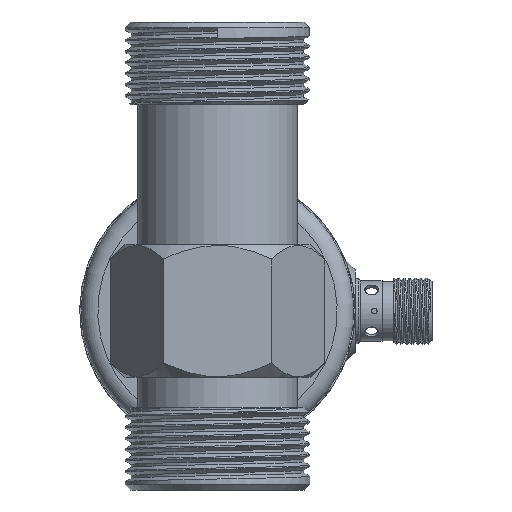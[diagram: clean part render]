
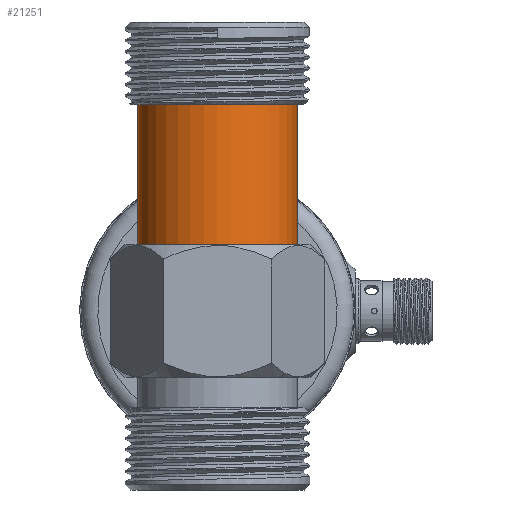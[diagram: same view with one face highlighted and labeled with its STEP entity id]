
A CAD part, front view. The second image highlights one B-rep face of the part: STEP entity #21251.
In plain terms, the highlighted cylindrical face has radius 14.5 mm (diameter 29 mm), a full revolution.
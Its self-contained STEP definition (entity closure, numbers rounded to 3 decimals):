
#2285 = DIRECTION ( 'NONE',  ( 1., 0., 0. ) ) ;
#2600 = CYLINDRICAL_SURFACE ( 'NONE', #20870, 14.5 ) ;
#2773 = CIRCLE ( 'NONE', #17981, 14.5 ) ;
#4200 = CARTESIAN_POINT ( 'NONE',  ( 0., 0., 2. ) ) ;
#4382 = AXIS2_PLACEMENT_3D ( 'NONE', #4200, #10975, #2285 ) ;
#4509 = VERTEX_POINT ( 'NONE', #16886 ) ;
#6559 = DIRECTION ( 'NONE',  ( 0., 0., -1. ) ) ;
#7878 = DIRECTION ( 'NONE',  ( 1., 0., 0. ) ) ;
#8602 = FACE_OUTER_BOUND ( 'NONE', #12968, .T. ) ;
#8863 = CARTESIAN_POINT ( 'NONE',  ( 0., 0., 42.5 ) ) ;
#9542 = VERTEX_POINT ( 'NONE', #26411 ) ;
#9923 = CARTESIAN_POINT ( 'NONE',  ( 0., 0., 27.5 ) ) ;
#10775 = EDGE_CURVE ( 'NONE', #9542, #9542, #2773, .T. ) ;
#10975 = DIRECTION ( 'NONE',  ( 0., 0., 1. ) ) ;
#12968 = EDGE_LOOP ( 'NONE', ( #17974 ) ) ;
#13875 = ORIENTED_EDGE ( 'NONE', *, *, #10775, .F. ) ;
#16886 = CARTESIAN_POINT ( 'NONE',  ( 14.5, 0., 2. ) ) ;
#16899 = FACE_OUTER_BOUND ( 'NONE', #24100, .T. ) ;
#17974 = ORIENTED_EDGE ( 'NONE', *, *, #22617, .T. ) ;
#17981 = AXIS2_PLACEMENT_3D ( 'NONE', #9923, #26522, #7878 ) ;
#19199 = DIRECTION ( 'NONE',  ( -1., 0., 0. ) ) ;
#20870 = AXIS2_PLACEMENT_3D ( 'NONE', #8863, #6559, #19199 ) ;
#21251 = ADVANCED_FACE ( 'NONE', ( #8602, #16899 ), #2600, .T. ) ;
#22617 = EDGE_CURVE ( 'NONE', #4509, #4509, #25239, .T. ) ;
#24100 = EDGE_LOOP ( 'NONE', ( #13875 ) ) ;
#25239 = CIRCLE ( 'NONE', #4382, 14.5 ) ;
#26411 = CARTESIAN_POINT ( 'NONE',  ( 14.5, 0., 27.5 ) ) ;
#26522 = DIRECTION ( 'NONE',  ( 0., 0., 1. ) ) ;
